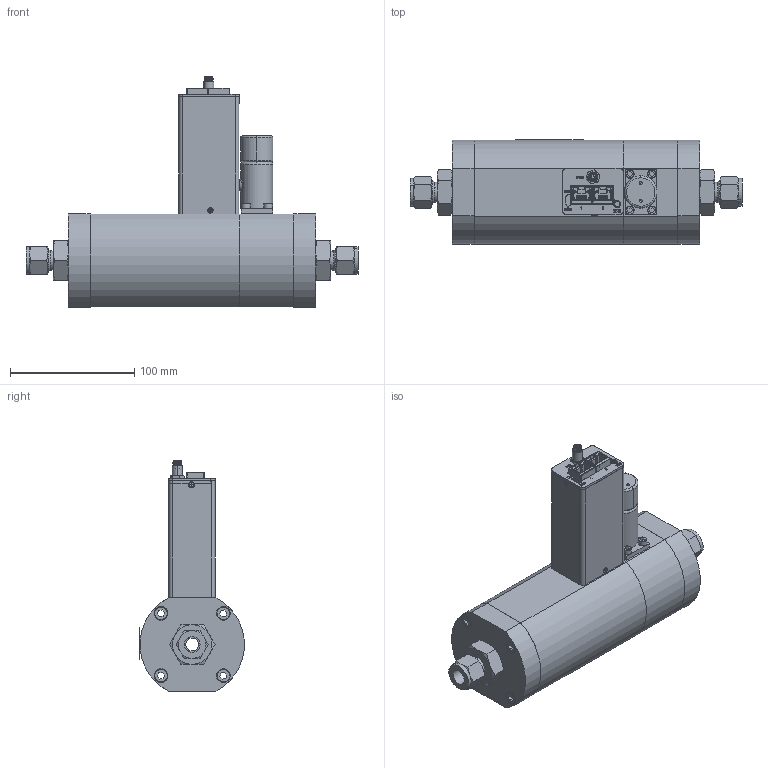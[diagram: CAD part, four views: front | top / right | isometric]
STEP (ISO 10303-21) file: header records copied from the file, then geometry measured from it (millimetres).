
FILE_DESCRIPTION (( 'STEP AP203' ), '1' );
FILE_NAME ('SLA5853-7-2D-2-C-REVB.STEP', '2020-06-25T10:42:32', ( '' ), ( '' ), 'SwSTEP 2.0', 'SolidWorks 2019', '' );
FILE_SCHEMA (( 'CONFIG_CONTROL_DESIGN' ));
Length unit declared in the file: inch
Products named in the file (2): SLA5853-7-2D-2-C-REVB
Bounding box: 266.87 x 84.02 x 184.93 mm (x, y, z)
Volume: 217501.5 mm3; surface area: 201958.1 mm2
Topology: 79 solids, 79 shells, 2526 faces, 6449 edges, 4144 vertices
Faces by surface type: plane 1609, cylinder 488, cone 260, bspline 169
Entity records: 81067 total; most frequent: CARTESIAN_POINT 19703, ORIENTED_EDGE 12870, DIRECTION 12309, EDGE_CURVE 6435, VECTOR 4657, LINE 4657, VERTEX_POINT 4144, AXIS2_PLACEMENT_3D 3826
